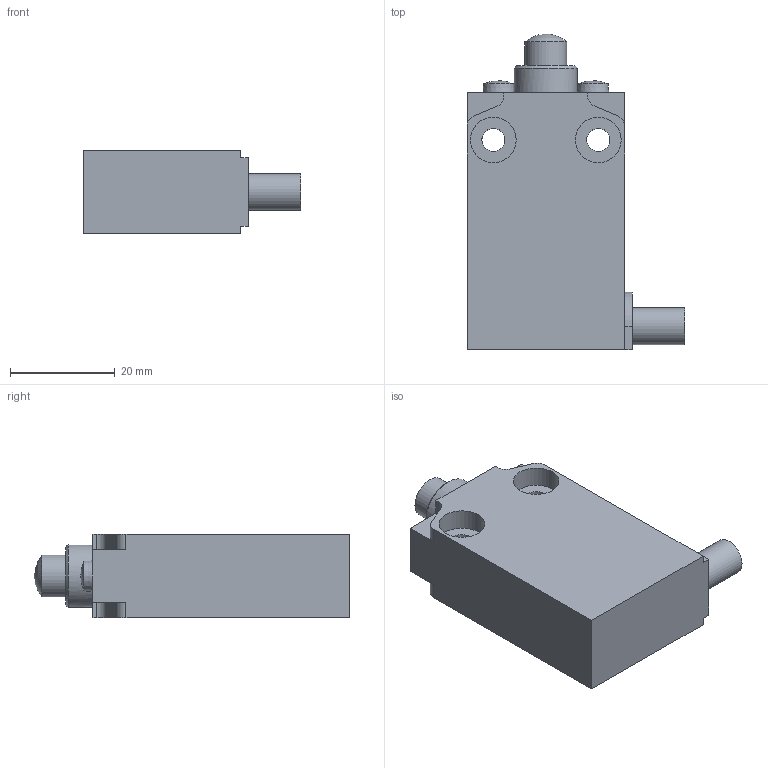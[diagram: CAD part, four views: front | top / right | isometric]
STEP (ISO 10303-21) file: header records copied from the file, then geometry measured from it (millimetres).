
FILE_DESCRIPTION(/* description */ (''),/* implementation_level */ '2;1');
FILE_NAME(/* name */ 'C:\Users\servizio.tecnico\Desktop\CADENAS\3D\EP1_STP\STP_EP1_G11U.stp',/* time_stamp */ '2017-08-31T16:05:50+02:00',/* author */ ('servizio.tecnico'),/* organization */ (''),/* preprocessor_version */ 'ST-DEVELOPER v16.1',/* originating_system */ 'Autodesk Inventor 2016',/* authorisation */ '');
FILE_SCHEMA (('AUTOMOTIVE_DESIGN { 1 0 10303 214 3 1 1 }'));
Length unit declared in the file: millimetre
Products named in the file (3): Product; EP1G11; BASE ASSI 
Assembly tree (2 placements, depth 3):
  BASE ASSI 
    EP1G11
      Product
Bounding box: 41.5 x 60.2 x 16 mm (x, y, z)
Volume: 23295.9 mm3; surface area: 7846.9 mm2
Topology: 3 solids, 3 shells, 84 faces, 211 edges, 137 vertices
Faces by surface type: plane 45, cylinder 27, cone 7, sphere 3, torus 2
Full cylindrical faces by diameter (mm): 4.4 x2, 7 x1, 7.95 x1, 8.05 x1, 8.7 x4, 12 x1
Entity records: 2470 total; most frequent: DIRECTION 428, CARTESIAN_POINT 417, ORIENTED_EDGE 368, EDGE_CURVE 184, AXIS2_PLACEMENT_3D 163, VERTEX_POINT 128, EDGE_LOOP 110, LINE 102
